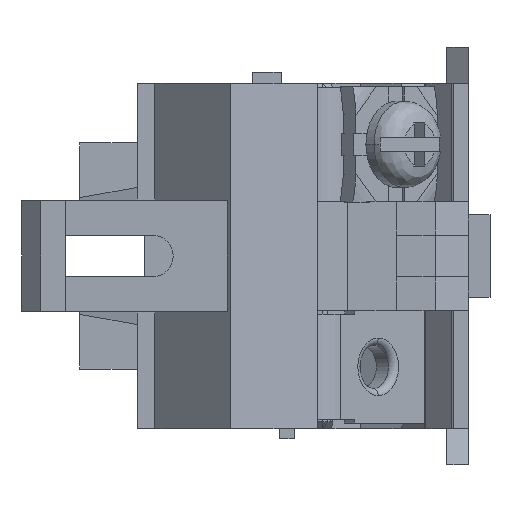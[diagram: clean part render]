
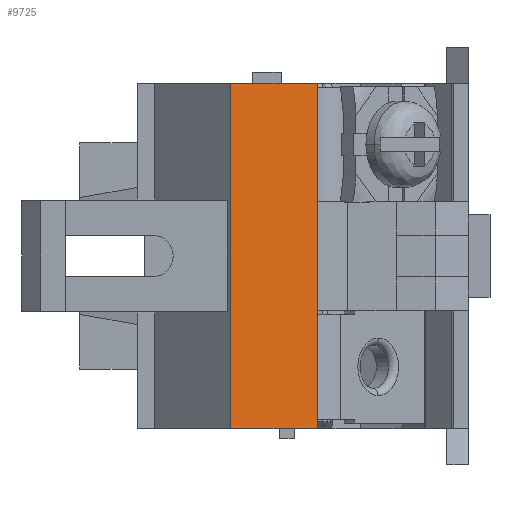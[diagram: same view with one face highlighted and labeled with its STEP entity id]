
A CAD part, left-side view. The second image highlights one B-rep face of the part: STEP entity #9725.
In plain terms, the highlighted planar face has unit normal (-0.984, -0.18, 0).
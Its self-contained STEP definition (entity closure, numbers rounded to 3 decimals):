
#327=DIRECTION('',(-0.18,0.984,0.));
#328=VECTOR('',#327,6.1);
#329=CARTESIAN_POINT('',(-15.,-1.,-12.));
#330=LINE('',#329,#328);
#1182=DIRECTION('',(-0.18,0.984,0.));
#1183=VECTOR('',#1182,6.1);
#1184=CARTESIAN_POINT('',(-15.,-1.,12.));
#1185=LINE('',#1184,#1183);
#2572=DIRECTION('',(0.,0.,1.));
#2573=VECTOR('',#2572,7.6);
#2574=CARTESIAN_POINT('',(-15.,-1.,-3.8));
#2575=LINE('',#2574,#2573);
#2576=DIRECTION('',(0.,0.,-1.));
#2577=VECTOR('',#2576,8.2);
#2578=CARTESIAN_POINT('',(-15.,-1.,-3.8));
#2579=LINE('',#2578,#2577);
#2580=DIRECTION('',(0.,0.,-1.));
#2581=VECTOR('',#2580,8.2);
#2582=CARTESIAN_POINT('',(-15.,-1.,12.));
#2583=LINE('',#2582,#2581);
#2600=DIRECTION('',(0.,0.,1.));
#2601=VECTOR('',#2600,24.);
#2602=CARTESIAN_POINT('',(-16.1,5.,-12.));
#2603=LINE('',#2602,#2601);
#5350=CARTESIAN_POINT('',(-15.,-1.,-12.));
#5351=CARTESIAN_POINT('',(-16.1,5.,-12.));
#5352=VERTEX_POINT('',#5350);
#5353=VERTEX_POINT('',#5351);
#5358=CARTESIAN_POINT('',(-15.,-1.,12.));
#5359=CARTESIAN_POINT('',(-16.1,5.,12.));
#5360=VERTEX_POINT('',#5358);
#5361=VERTEX_POINT('',#5359);
#6386=CARTESIAN_POINT('',(-15.,-1.,-3.8));
#6387=CARTESIAN_POINT('',(-15.,-1.,3.8));
#6388=VERTEX_POINT('',#6386);
#6389=VERTEX_POINT('',#6387);
#9711=CARTESIAN_POINT('',(-15.,-1.,12.));
#9712=DIRECTION('',(0.984,0.18,0.));
#9713=DIRECTION('',(-0.18,0.984,0.));
#9714=AXIS2_PLACEMENT_3D('',#9711,#9712,#9713);
#9715=PLANE('',#9714);
#9716=ORIENTED_EDGE('',*,*,#9705,.F.);
#9717=ORIENTED_EDGE('',*,*,#7758,.T.);
#9718=ORIENTED_EDGE('',*,*,#7269,.T.);
#9720=ORIENTED_EDGE('',*,*,#9719,.T.);
#9721=ORIENTED_EDGE('',*,*,#7997,.F.);
#9722=ORIENTED_EDGE('',*,*,#7745,.T.);
#9723=EDGE_LOOP('',(#9716,#9717,#9718,#9720,#9721,#9722));
#9724=FACE_OUTER_BOUND('',#9723,.F.);
#7269=EDGE_CURVE('',#5352,#5353,#330,.T.);
#7745=EDGE_CURVE('',#5360,#6389,#2583,.T.);
#7758=EDGE_CURVE('',#6388,#5352,#2579,.T.);
#7997=EDGE_CURVE('',#5360,#5361,#1185,.T.);
#9705=EDGE_CURVE('',#6388,#6389,#2575,.T.);
#9719=EDGE_CURVE('',#5353,#5361,#2603,.T.);
#9725=ADVANCED_FACE('',(#9724),#9715,.F.);
